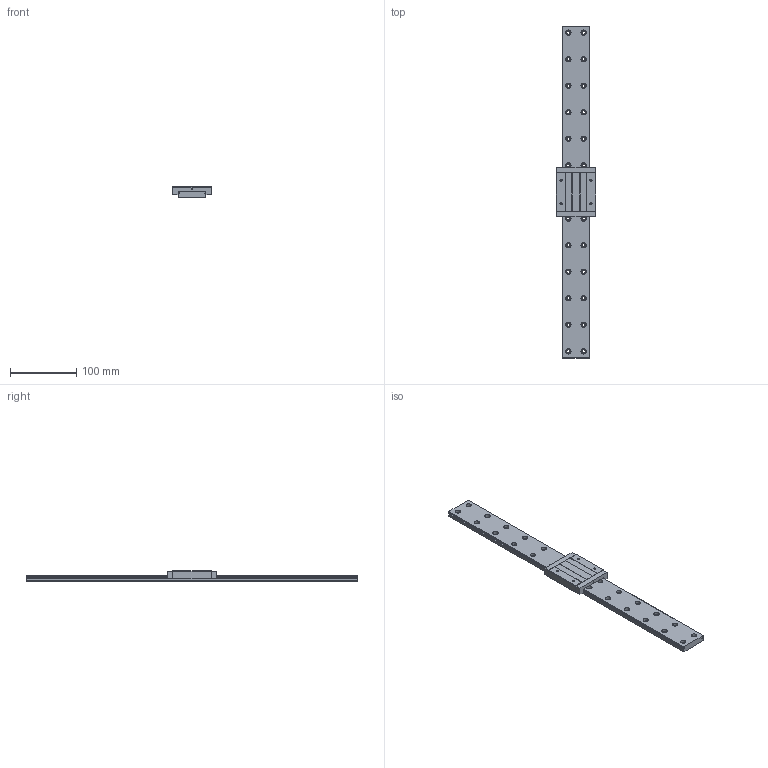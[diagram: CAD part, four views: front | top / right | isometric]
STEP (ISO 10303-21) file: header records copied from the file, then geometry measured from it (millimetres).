
FILE_DESCRIPTION (( 'STEP AP203' ), '1' );
FILE_NAME ('TM15WL.STEP', '2023-01-30T09:14:19', ( '' ), ( '' ), 'SwSTEP 2.0', 'SolidWorks 2019', '' );
FILE_SCHEMA (( 'CONFIG_CONTROL_DESIGN' ));
Length unit declared in the file: millimetre
Products named in the file (1): TM15WL
Bounding box: 60 x 500 x 16 mm (x, y, z)
Volume: 223493.1 mm3; surface area: 72688.5 mm2
Topology: 2 solids, 2 shells, 246 faces, 630 edges, 412 vertices
Faces by surface type: cylinder 148, plane 90, cone 8
Entity records: 7697 total; most frequent: DIRECTION 1412, CARTESIAN_POINT 1281, ORIENTED_EDGE 1244, EDGE_CURVE 622, AXIS2_PLACEMENT_3D 543, VERTEX_POINT 412, EDGE_LOOP 330, LINE 326
